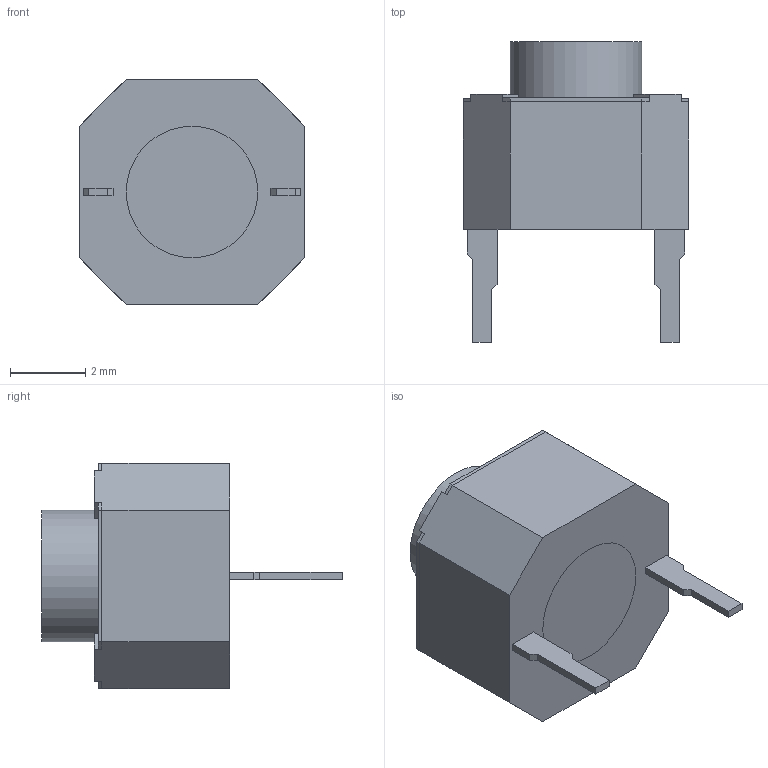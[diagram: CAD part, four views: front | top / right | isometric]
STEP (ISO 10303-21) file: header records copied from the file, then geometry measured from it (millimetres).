
FILE_DESCRIPTION(/* description */ (''),/* implementation_level */ '2;1');
FILE_NAME(/* name */ 'C:/Users/mak/Desktop/乾燥実験/KiCAD/部品図面/Tact_SW_TVDT18-050CW-T.step',/* time_stamp */ '2022-05-04T15:30:18+09:00',/* author */ (''),/* organization */ (''),/* preprocessor_version */ 'ST-DEVELOPER v18.1',/* originating_system */ 'Autodesk Translation Framework v10.14.0.1471',/* authorisation */ '');
FILE_SCHEMA (('AUTOMOTIVE_DESIGN { 1 0 10303 214 3 1 1 }'));
Length unit declared in the file: millimetre
Products named in the file (1): Tact_SW_TVDT18-050CW-T
Bounding box: 6 x 8 x 6 mm (x, y, z)
Volume: 130.5 mm3; surface area: 304.4 mm2
Topology: 5 solids, 5 shells, 78 faces, 201 edges, 134 vertices
Faces by surface type: plane 75, cylinder 3
Full cylindrical faces by diameter (mm): 3.5 x3
Entity records: 2385 total; most frequent: CARTESIAN_POINT 414, ORIENTED_EDGE 402, DIRECTION 365, EDGE_CURVE 201, LINE 195, VECTOR 195, VERTEX_POINT 134, AXIS2_PLACEMENT_3D 85
